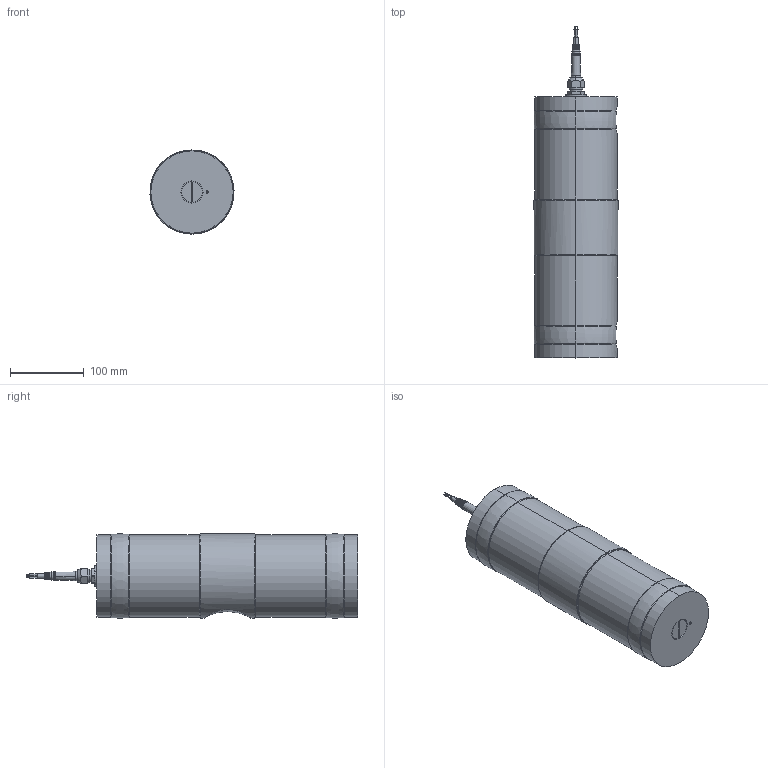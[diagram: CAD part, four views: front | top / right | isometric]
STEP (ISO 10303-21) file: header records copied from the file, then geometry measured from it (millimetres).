
FILE_DESCRIPTION (( 'STEP AP214' ), '1' );
FILE_NAME ('KDH-1 300 klb Load Cell.STEP', '2021-03-12T13:02:40', ( '' ), ( '' ), 'SwSTEP 2.0', 'SolidWorks 2021', '' );
FILE_SCHEMA (( 'AUTOMOTIVE_DESIGN' ));
Length unit declared in the file: millimetre
Products named in the file (6): M26x1.5 - Lock - 600490r1; Element KDH-1 300000Lb; KDH-1 300 klb Load Cell; Pg9 - 1009.52 6_2_14; M26x1.5 - Pg9 - 6369829; Kabel
Assembly tree (5 placements, depth 2):
  KDH-1 300 klb Load Cell
    Element KDH-1 300000Lb
    M26x1.5 - Pg9 - 6369829
    Pg9 - 1009.52 6_2_14
    Kabel
    M26x1.5 - Lock - 600490r1
Bounding box: 113.68 x 449.04 x 113.79 mm (x, y, z)
Volume: 3435417.3 mm3; surface area: 163187.4 mm2
Topology: 5 solids, 8 shells, 278 faces, 626 edges, 384 vertices
Faces by surface type: cylinder 92, plane 55, cone 51, torus 50, bspline 30
Entity records: 10925 total; most frequent: CARTESIAN_POINT 3644, DIRECTION 1420, ORIENTED_EDGE 1244, EDGE_CURVE 622, AXIS2_PLACEMENT_3D 620, VERTEX_POINT 384, CIRCLE 364, EDGE_LOOP 312
